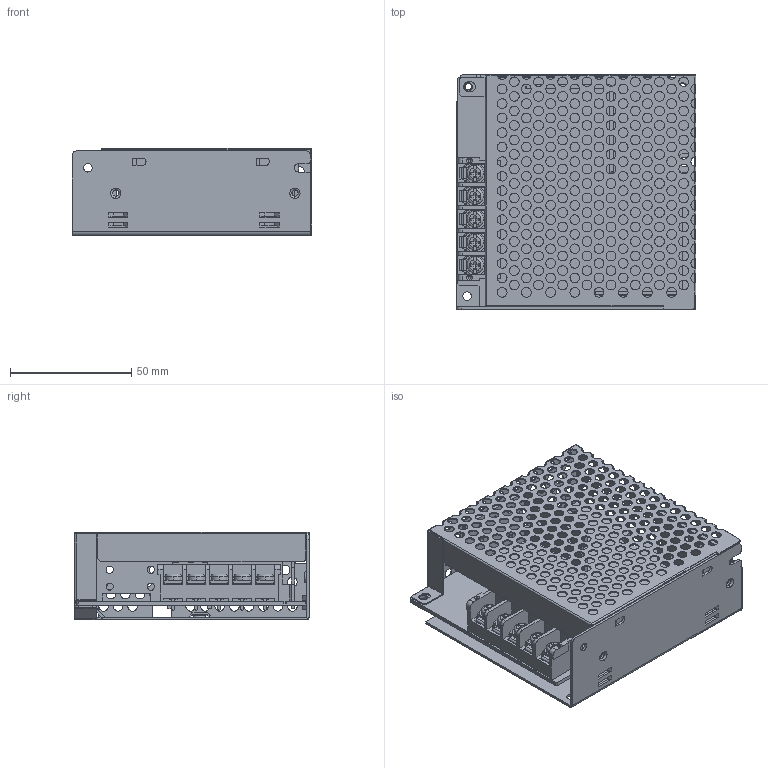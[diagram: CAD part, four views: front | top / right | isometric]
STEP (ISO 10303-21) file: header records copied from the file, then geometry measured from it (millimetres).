
FILE_DESCRIPTION(('Creo Elements/Direct Modeling STEP Export'),'2;1');
FILE_NAME('SD-25.stp','2021-01-07T14:18:26',(''),(''),'PTC Creo Elements/Direct Modeling STEP processor for AP214 (Solid Model)','PTC Creo Elements/Direct Modeling 19.0E 27-Jun-2016 (C) Parametric Technology GmbH','');
FILE_SCHEMA(('AUTOMOTIVE_DESIGN { 1 0 10303 214 1 1 1 1 }'));
Length unit declared in the file: millimetre
Products named in the file (15): 905-D; 905D-T; YS026W-025; YS026W-025.1; CASE; 6.PRT; 2.PRT; 3.PRT; 4.PRT; 5.PRT; 6.PRT.1; T44-BS1R05370120201023.stp; PCB; SD25PCB; SD-25
Assembly tree (14 placements, depth 3):
  SD-25
    SD25PCB
      PCB
    T44-BS1R05370120201023.stp
      6.PRT.1
      5.PRT
      4.PRT
      3.PRT
      2.PRT
      6.PRT
    CASE
      YS026W-025.1
      YS026W-025
      905D-T
      905-D
Bounding box: 99 x 97.05 x 36 mm (x, y, z)
Volume: 44895.9 mm3; surface area: 85084.4 mm2
Topology: 11 solids, 11 shells, 1882 faces, 5609 edges, 3670 vertices
Faces by surface type: cylinder 1127, plane 633, cone 34, torus 26, sphere 22, bspline 20, extrusion 20
Entity records: 63422 total; most frequent: CARTESIAN_POINT 12893, ORIENTED_EDGE 11154, DIRECTION 9541, EDGE_CURVE 5577, VERTEX_POINT 3670, AXIS2_PLACEMENT_3D 3312, VECTOR 2917, LINE 2897
